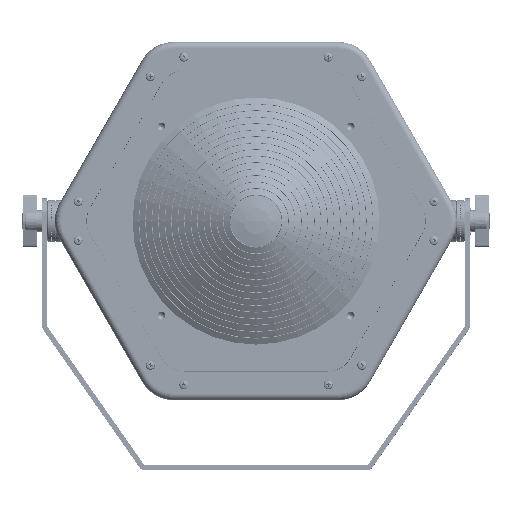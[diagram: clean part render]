
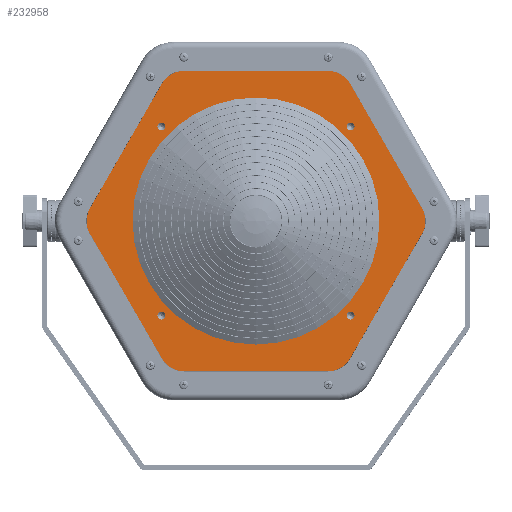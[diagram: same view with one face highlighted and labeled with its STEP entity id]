
A CAD part, front view. The second image highlights one B-rep face of the part: STEP entity #232958.
In plain terms, the highlighted planar face has unit normal (0, -1, 0) as drawn and (0, 1, 0) by its records, which use the part's own axes.
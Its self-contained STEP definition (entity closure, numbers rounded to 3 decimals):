
#232428=CARTESIAN_POINT('',(0.,1.5,0.));
#232429=DIRECTION('',(0.,-1.,0.));
#232430=DIRECTION('',(1.,0.,0.));
#232431=AXIS2_PLACEMENT_3D('',#232428,#232429,#232430);
#232433=CARTESIAN_POINT('',(0.,1.5,0.));
#232434=DIRECTION('',(0.,-1.,0.));
#232435=DIRECTION('',(-1.,0.,0.));
#232436=AXIS2_PLACEMENT_3D('',#232433,#232434,#232435);
#232438=CARTESIAN_POINT('',(-72.726,1.5,72.726));
#232439=DIRECTION('',(0.,-1.,0.));
#232440=DIRECTION('',(-1.,0.,0.));
#232441=AXIS2_PLACEMENT_3D('',#232438,#232439,#232440);
#232443=CARTESIAN_POINT('',(-72.726,1.5,72.726));
#232444=DIRECTION('',(0.,-1.,0.));
#232445=DIRECTION('',(1.,0.,0.));
#232446=AXIS2_PLACEMENT_3D('',#232443,#232444,#232445);
#232448=CARTESIAN_POINT('',(-72.726,1.5,-72.726));
#232449=DIRECTION('',(0.,-1.,0.));
#232450=DIRECTION('',(-1.,0.,0.));
#232451=AXIS2_PLACEMENT_3D('',#232448,#232449,#232450);
#232453=CARTESIAN_POINT('',(-72.726,1.5,-72.726));
#232454=DIRECTION('',(0.,-1.,0.));
#232455=DIRECTION('',(1.,0.,0.));
#232456=AXIS2_PLACEMENT_3D('',#232453,#232454,#232455);
#232458=CARTESIAN_POINT('',(72.726,1.5,-72.726));
#232459=DIRECTION('',(0.,-1.,0.));
#232460=DIRECTION('',(-1.,0.,0.));
#232461=AXIS2_PLACEMENT_3D('',#232458,#232459,#232460);
#232463=CARTESIAN_POINT('',(72.726,1.5,-72.726));
#232464=DIRECTION('',(0.,-1.,0.));
#232465=DIRECTION('',(1.,0.,0.));
#232466=AXIS2_PLACEMENT_3D('',#232463,#232464,#232465);
#232468=CARTESIAN_POINT('',(72.726,1.5,72.726));
#232469=DIRECTION('',(0.,-1.,0.));
#232470=DIRECTION('',(-1.,0.,0.));
#232471=AXIS2_PLACEMENT_3D('',#232468,#232469,#232470);
#232473=CARTESIAN_POINT('',(72.726,1.5,72.726));
#232474=DIRECTION('',(0.,-1.,0.));
#232475=DIRECTION('',(1.,0.,0.));
#232476=AXIS2_PLACEMENT_3D('',#232473,#232474,#232475);
#232478=DIRECTION('',(1.,0.,0.));
#232479=VECTOR('',#232478,110.851);
#232480=CARTESIAN_POINT('',(-55.426,1.5,-115.5));
#232481=LINE('',#232480,#232479);
#232482=CARTESIAN_POINT('',(55.426,1.5,-96.));
#232483=DIRECTION('',(0.,1.,0.));
#232484=DIRECTION('',(0.866,0.,-0.5));
#232485=AXIS2_PLACEMENT_3D('',#232482,#232483,#232484);
#232487=DIRECTION('',(0.5,0.,0.866));
#232488=VECTOR('',#232487,110.851);
#232489=CARTESIAN_POINT('',(72.313,1.5,-105.75));
#232490=LINE('',#232489,#232488);
#232491=CARTESIAN_POINT('',(110.851,1.5,0.));
#232492=DIRECTION('',(0.,1.,0.));
#232493=DIRECTION('',(0.866,0.,0.5));
#232494=AXIS2_PLACEMENT_3D('',#232491,#232492,#232493);
#232496=DIRECTION('',(-0.5,0.,0.866));
#232497=VECTOR('',#232496,110.851);
#232498=CARTESIAN_POINT('',(127.739,1.5,9.75));
#232499=LINE('',#232498,#232497);
#232500=CARTESIAN_POINT('',(55.426,1.5,96.));
#232501=DIRECTION('',(0.,1.,0.));
#232502=DIRECTION('',(0.,0.,1.));
#232503=AXIS2_PLACEMENT_3D('',#232500,#232501,#232502);
#232505=DIRECTION('',(-1.,0.,0.));
#232506=VECTOR('',#232505,110.851);
#232507=CARTESIAN_POINT('',(55.426,1.5,115.5));
#232508=LINE('',#232507,#232506);
#232509=CARTESIAN_POINT('',(-55.426,1.5,96.));
#232510=DIRECTION('',(0.,1.,0.));
#232511=DIRECTION('',(-0.866,0.,0.5));
#232512=AXIS2_PLACEMENT_3D('',#232509,#232510,#232511);
#232514=DIRECTION('',(-0.5,0.,-0.866));
#232515=VECTOR('',#232514,110.851);
#232516=CARTESIAN_POINT('',(-72.313,1.5,105.75));
#232517=LINE('',#232516,#232515);
#232518=CARTESIAN_POINT('',(-110.851,1.5,0.));
#232519=DIRECTION('',(0.,1.,0.));
#232520=DIRECTION('',(-0.866,0.,-0.5));
#232521=AXIS2_PLACEMENT_3D('',#232518,#232519,#232520);
#232523=DIRECTION('',(0.5,0.,-0.866));
#232524=VECTOR('',#232523,110.851);
#232525=CARTESIAN_POINT('',(-127.739,1.5,-9.75));
#232526=LINE('',#232525,#232524);
#232527=CARTESIAN_POINT('',(-55.426,1.5,-96.));
#232528=DIRECTION('',(0.,1.,0.));
#232529=DIRECTION('',(0.,0.,-1.));
#232530=AXIS2_PLACEMENT_3D('',#232527,#232528,#232529);
#232688=CARTESIAN_POINT('',(95.,1.5,0.));
#232689=CARTESIAN_POINT('',(-95.,1.5,0.));
#232690=VERTEX_POINT('',#232688);
#232691=VERTEX_POINT('',#232689);
#232708=CARTESIAN_POINT('',(-75.776,1.5,72.726));
#232709=CARTESIAN_POINT('',(-69.676,1.5,72.726));
#232710=VERTEX_POINT('',#232708);
#232711=VERTEX_POINT('',#232709);
#232716=CARTESIAN_POINT('',(-75.776,1.5,-72.726));
#232717=CARTESIAN_POINT('',(-69.676,1.5,-72.726));
#232718=VERTEX_POINT('',#232716);
#232719=VERTEX_POINT('',#232717);
#232724=CARTESIAN_POINT('',(69.676,1.5,-72.726));
#232725=CARTESIAN_POINT('',(75.776,1.5,-72.726));
#232726=VERTEX_POINT('',#232724);
#232727=VERTEX_POINT('',#232725);
#232732=CARTESIAN_POINT('',(69.676,1.5,72.726));
#232733=CARTESIAN_POINT('',(75.776,1.5,72.726));
#232734=VERTEX_POINT('',#232732);
#232735=VERTEX_POINT('',#232733);
#232764=CARTESIAN_POINT('',(-55.426,1.5,-115.5));
#232765=CARTESIAN_POINT('',(55.426,1.5,-115.5));
#232766=VERTEX_POINT('',#232764);
#232767=VERTEX_POINT('',#232765);
#232768=CARTESIAN_POINT('',(72.313,1.5,-105.75));
#232769=VERTEX_POINT('',#232768);
#232770=CARTESIAN_POINT('',(127.739,1.5,-9.75));
#232771=VERTEX_POINT('',#232770);
#232772=CARTESIAN_POINT('',(127.739,1.5,9.75));
#232773=VERTEX_POINT('',#232772);
#232774=CARTESIAN_POINT('',(72.313,1.5,105.75));
#232775=VERTEX_POINT('',#232774);
#232776=CARTESIAN_POINT('',(55.426,1.5,115.5));
#232777=VERTEX_POINT('',#232776);
#232778=CARTESIAN_POINT('',(-55.426,1.5,115.5));
#232779=VERTEX_POINT('',#232778);
#232780=CARTESIAN_POINT('',(-72.313,1.5,105.75));
#232781=VERTEX_POINT('',#232780);
#232782=CARTESIAN_POINT('',(-127.739,1.5,9.75));
#232783=VERTEX_POINT('',#232782);
#232784=CARTESIAN_POINT('',(-127.739,1.5,-9.75));
#232785=VERTEX_POINT('',#232784);
#232786=CARTESIAN_POINT('',(-72.313,1.5,-105.75));
#232787=VERTEX_POINT('',#232786);
#232899=CARTESIAN_POINT('',(0.,1.5,0.));
#232900=DIRECTION('',(0.,1.,0.));
#232901=DIRECTION('',(1.,0.,0.));
#232902=AXIS2_PLACEMENT_3D('',#232899,#232900,#232901);
#232903=PLANE('',#232902);
#232905=ORIENTED_EDGE('',*,*,#232904,.T.);
#232907=ORIENTED_EDGE('',*,*,#232906,.F.);
#232909=ORIENTED_EDGE('',*,*,#232908,.T.);
#232911=ORIENTED_EDGE('',*,*,#232910,.F.);
#232913=ORIENTED_EDGE('',*,*,#232912,.T.);
#232915=ORIENTED_EDGE('',*,*,#232914,.F.);
#232917=ORIENTED_EDGE('',*,*,#232916,.T.);
#232919=ORIENTED_EDGE('',*,*,#232918,.F.);
#232921=ORIENTED_EDGE('',*,*,#232920,.T.);
#232923=ORIENTED_EDGE('',*,*,#232922,.F.);
#232925=ORIENTED_EDGE('',*,*,#232924,.T.);
#232927=ORIENTED_EDGE('',*,*,#232926,.F.);
#232928=EDGE_LOOP('',(#232905,#232907,#232909,#232911,#232913,#232915,#232917,
#232919,#232921,#232923,#232925,#232927));
#232929=FACE_OUTER_BOUND('',#232928,.F.);
#232931=ORIENTED_EDGE('',*,*,#232930,.F.);
#232933=ORIENTED_EDGE('',*,*,#232932,.F.);
#232934=EDGE_LOOP('',(#232931,#232933));
#232935=FACE_BOUND('',#232934,.F.);
#232937=ORIENTED_EDGE('',*,*,#232936,.F.);
#232939=ORIENTED_EDGE('',*,*,#232938,.F.);
#232940=EDGE_LOOP('',(#232937,#232939));
#232941=FACE_BOUND('',#232940,.F.);
#232943=ORIENTED_EDGE('',*,*,#232942,.F.);
#232945=ORIENTED_EDGE('',*,*,#232944,.F.);
#232946=EDGE_LOOP('',(#232943,#232945));
#232947=FACE_BOUND('',#232946,.F.);
#232949=ORIENTED_EDGE('',*,*,#232948,.F.);
#232951=ORIENTED_EDGE('',*,*,#232950,.F.);
#232952=EDGE_LOOP('',(#232949,#232951));
#232953=FACE_BOUND('',#232952,.F.);
#232954=ORIENTED_EDGE('',*,*,#232865,.F.);
#232955=ORIENTED_EDGE('',*,*,#232886,.F.);
#232956=EDGE_LOOP('',(#232954,#232955));
#232957=FACE_BOUND('',#232956,.F.);
#232432=CIRCLE('',#232431,95.);
#232437=CIRCLE('',#232436,95.);
#232442=CIRCLE('',#232441,3.05);
#232447=CIRCLE('',#232446,3.05);
#232452=CIRCLE('',#232451,3.05);
#232457=CIRCLE('',#232456,3.05);
#232462=CIRCLE('',#232461,3.05);
#232467=CIRCLE('',#232466,3.05);
#232472=CIRCLE('',#232471,3.05);
#232477=CIRCLE('',#232476,3.05);
#232486=CIRCLE('',#232485,19.5);
#232495=CIRCLE('',#232494,19.5);
#232504=CIRCLE('',#232503,19.5);
#232513=CIRCLE('',#232512,19.5);
#232522=CIRCLE('',#232521,19.5);
#232531=CIRCLE('',#232530,19.5);
#232865=EDGE_CURVE('',#232690,#232691,#232432,.T.);
#232886=EDGE_CURVE('',#232691,#232690,#232437,.T.);
#232904=EDGE_CURVE('',#232766,#232767,#232481,.T.);
#232906=EDGE_CURVE('',#232769,#232767,#232486,.T.);
#232908=EDGE_CURVE('',#232769,#232771,#232490,.T.);
#232910=EDGE_CURVE('',#232773,#232771,#232495,.T.);
#232912=EDGE_CURVE('',#232773,#232775,#232499,.T.);
#232914=EDGE_CURVE('',#232777,#232775,#232504,.T.);
#232916=EDGE_CURVE('',#232777,#232779,#232508,.T.);
#232918=EDGE_CURVE('',#232781,#232779,#232513,.T.);
#232920=EDGE_CURVE('',#232781,#232783,#232517,.T.);
#232922=EDGE_CURVE('',#232785,#232783,#232522,.T.);
#232924=EDGE_CURVE('',#232785,#232787,#232526,.T.);
#232926=EDGE_CURVE('',#232766,#232787,#232531,.T.);
#232930=EDGE_CURVE('',#232710,#232711,#232442,.T.);
#232932=EDGE_CURVE('',#232711,#232710,#232447,.T.);
#232936=EDGE_CURVE('',#232718,#232719,#232452,.T.);
#232938=EDGE_CURVE('',#232719,#232718,#232457,.T.);
#232942=EDGE_CURVE('',#232726,#232727,#232462,.T.);
#232944=EDGE_CURVE('',#232727,#232726,#232467,.T.);
#232948=EDGE_CURVE('',#232734,#232735,#232472,.T.);
#232950=EDGE_CURVE('',#232735,#232734,#232477,.T.);
#232958=ADVANCED_FACE('',(#232929,#232935,#232941,#232947,#232953,#232957),
#232903,.T.);
